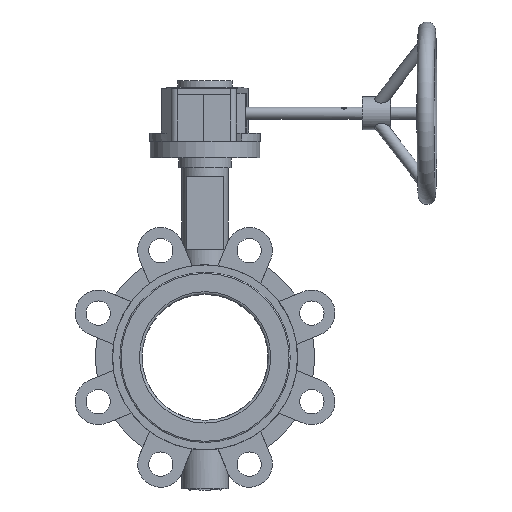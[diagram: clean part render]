
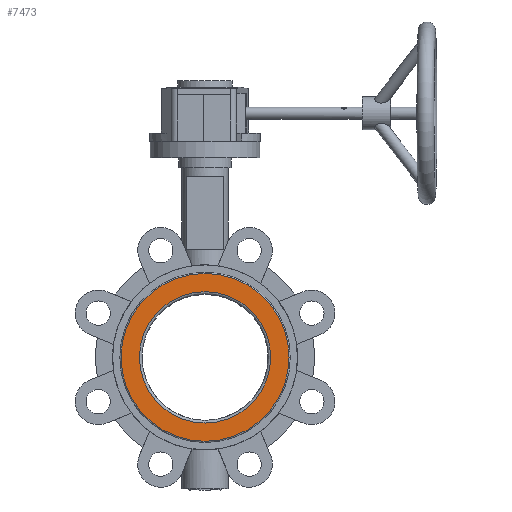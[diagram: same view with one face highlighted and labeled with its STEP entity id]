
A CAD part, front view. The second image highlights one B-rep face of the part: STEP entity #7473.
In plain terms, the highlighted planar face has unit normal (0, -1, 0) as drawn and (1, 0, 0) by its records, which use the part's own axes.
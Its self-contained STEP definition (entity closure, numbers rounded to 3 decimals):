
#550 = CARTESIAN_POINT ( 'NONE',  ( 28., 0., 0. ) ) ;
#1108 = FACE_BOUND ( 'NONE', #3491, .T. ) ;
#1144 = EDGE_CURVE ( 'NONE', #9812, #9812, #3001, .T. ) ;
#1469 = DIRECTION ( 'NONE',  ( 0., 0., -1. ) ) ;
#2237 = CARTESIAN_POINT ( 'NONE',  ( 28., 0., 0. ) ) ;
#3001 = CIRCLE ( 'NONE', #6839, 53.945 ) ;
#3381 = AXIS2_PLACEMENT_3D ( 'NONE', #550, #9580, #1469 ) ;
#3491 = EDGE_LOOP ( 'NONE', ( #8034 ) ) ;
#3583 = CARTESIAN_POINT ( 'NONE',  ( 28., 0., 53.945 ) ) ;
#3867 = PLANE ( 'NONE',  #3381 ) ;
#3870 = DIRECTION ( 'NONE',  ( 0., 0., 1. ) ) ;
#4437 = EDGE_CURVE ( 'NONE', #9424, #9424, #9203, .T. ) ;
#5147 = ORIENTED_EDGE ( 'NONE', *, *, #4437, .F. ) ;
#5404 = DIRECTION ( 'NONE',  ( -1., 0., 0. ) ) ;
#6839 = AXIS2_PLACEMENT_3D ( 'NONE', #7909, #9543, #3870 ) ;
#7013 = AXIS2_PLACEMENT_3D ( 'NONE', #2237, #5404, #8045 ) ;
#7281 = FACE_OUTER_BOUND ( 'NONE', #9736, .T. ) ;
#7473 = ADVANCED_FACE ( 'NONE', ( #1108, #7281 ), #3867, .T. ) ;
#7909 = CARTESIAN_POINT ( 'NONE',  ( 28., 0., 0. ) ) ;
#8034 = ORIENTED_EDGE ( 'NONE', *, *, #1144, .T. ) ;
#8045 = DIRECTION ( 'NONE',  ( 0., 0., 1. ) ) ;
#8664 = CARTESIAN_POINT ( 'NONE',  ( 28., 0., 69. ) ) ;
#9203 = CIRCLE ( 'NONE', #7013, 69. ) ;
#9424 = VERTEX_POINT ( 'NONE', #8664 ) ;
#9543 = DIRECTION ( 'NONE',  ( -1., 0., 0. ) ) ;
#9580 = DIRECTION ( 'NONE',  ( 1., 0., 0. ) ) ;
#9736 = EDGE_LOOP ( 'NONE', ( #5147 ) ) ;
#9812 = VERTEX_POINT ( 'NONE', #3583 ) ;
